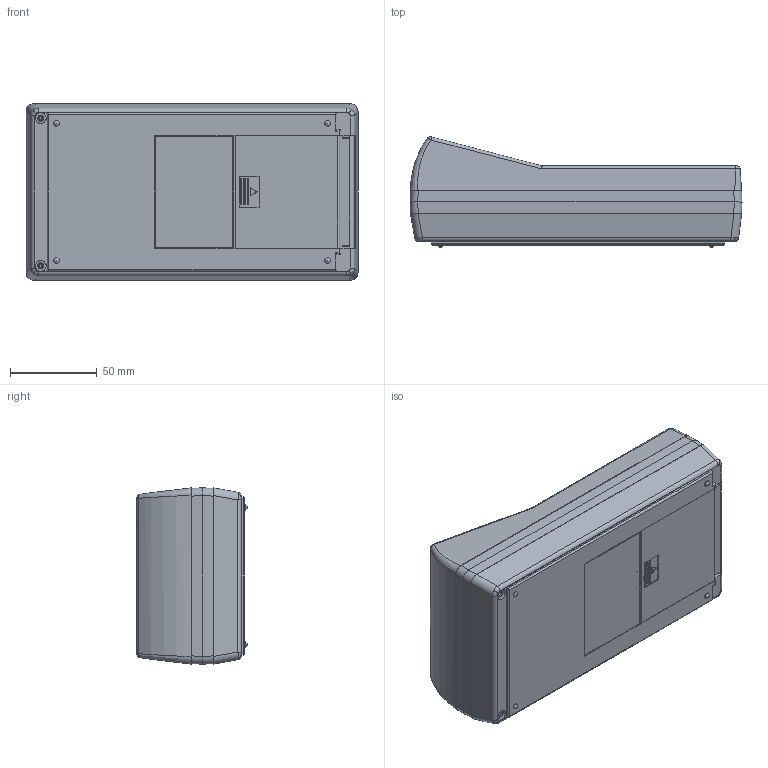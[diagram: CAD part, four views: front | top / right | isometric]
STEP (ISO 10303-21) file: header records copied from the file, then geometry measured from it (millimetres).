
FILE_DESCRIPTION (( 'STEP AP214' ), '1' );
FILE_NAME ('90-52-29V-E-R.STEP', '2019-12-01T17:01:27', ( 'Rudy' ), ( '' ), 'SwSTEP 2.0', 'SolidWorks 2014', '' );
FILE_SCHEMA (( 'AUTOMOTIVE_DESIGN' ));
Length unit declared in the file: millimetre
Products named in the file (6): 29V door; 100-06 EXPANDER; 100 bessel; 100 Top Angled LCD; 100-02 BOT-29V; 90-52-29V-E-R
Assembly tree (5 placements, depth 2):
  90-52-29V-E-R
    100-02 BOT-29V
    100 Top Angled LCD
    100 bessel
    100-06 EXPANDER
    29V door
Bounding box: 191 x 63.49 x 101.4 mm (x, y, z)
Volume: 151354.3 mm3; surface area: 157329.1 mm2
Topology: 5 solids, 5 shells, 747 faces, 1996 edges, 1279 vertices
Faces by surface type: plane 459, cylinder 206, cone 44, bspline 22, torus 12, sphere 4
Entity records: 24706 total; most frequent: CARTESIAN_POINT 6065, ORIENTED_EDGE 3960, DIRECTION 3561, EDGE_CURVE 1980, LINE 1389, VECTOR 1389, VERTEX_POINT 1271, AXIS2_PLACEMENT_3D 1086
